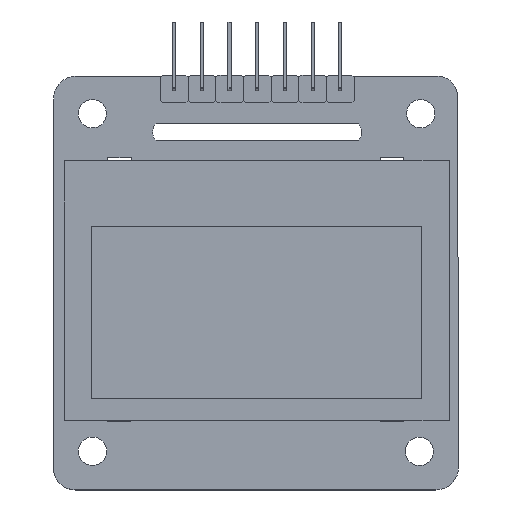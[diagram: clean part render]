
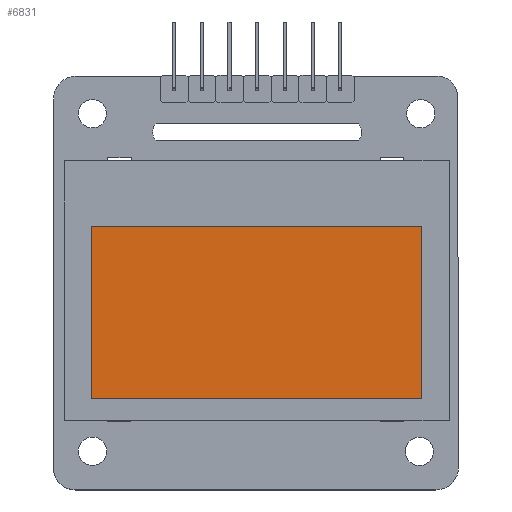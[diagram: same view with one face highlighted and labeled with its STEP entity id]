
A CAD part, top view. The second image highlights one B-rep face of the part: STEP entity #6831.
In plain terms, the highlighted planar face has unit normal (0, 0, 1).
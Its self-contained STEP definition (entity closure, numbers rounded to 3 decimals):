
#6831=ADVANCED_FACE('',(#8848),#7712,.F.);
#7712=PLANE('',#27045);
#8848=FACE_OUTER_BOUND('',#10132,.T.);
#10132=EDGE_LOOP('',(#15989,#15990,#15991,#15992));
#15989=ORIENTED_EDGE('',*,*,#20895,.F.);
#15990=ORIENTED_EDGE('',*,*,#20905,.F.);
#15991=ORIENTED_EDGE('',*,*,#20902,.F.);
#15992=ORIENTED_EDGE('',*,*,#20899,.F.);
#17959=VERTEX_POINT('',#46603);
#17960=VERTEX_POINT('',#46604);
#17963=VERTEX_POINT('',#46612);
#17965=VERTEX_POINT('',#46618);
#20895=EDGE_CURVE('',#17959,#17960,#23254,.T.);
#20899=EDGE_CURVE('',#17960,#17963,#23258,.T.);
#20902=EDGE_CURVE('',#17963,#17965,#23261,.T.);
#20905=EDGE_CURVE('',#17965,#17959,#23264,.T.);
#23254=LINE('',#46602,#25613);
#23258=LINE('',#46611,#25617);
#23261=LINE('',#46617,#25620);
#23264=LINE('',#46623,#25623);
#25613=VECTOR('',#32218,1.);
#25617=VECTOR('',#32224,1.);
#25620=VECTOR('',#32229,1.);
#25623=VECTOR('',#32234,1.);
#27045=AXIS2_PLACEMENT_3D('',#46627,#32240,#32241);
#32218=DIRECTION('',(0.,1.,0.));
#32224=DIRECTION('',(1.,0.,0.));
#32229=DIRECTION('',(0.,-1.,0.));
#32234=DIRECTION('',(-1.,0.,0.));
#32240=DIRECTION('',(0.,0.,-1.));
#32241=DIRECTION('',(1.,0.,0.));
#46602=CARTESIAN_POINT('',(-15.15,-5.9,3.5));
#46603=CARTESIAN_POINT('',(-15.15,-5.9,3.5));
#46604=CARTESIAN_POINT('',(-15.15,9.9,3.5));
#46611=CARTESIAN_POINT('',(-15.15,9.9,3.5));
#46612=CARTESIAN_POINT('',(15.15,9.9,3.5));
#46617=CARTESIAN_POINT('',(15.15,9.9,3.5));
#46618=CARTESIAN_POINT('',(15.15,-5.9,3.5));
#46623=CARTESIAN_POINT('',(15.15,-5.9,3.5));
#46627=CARTESIAN_POINT('',(0.,0.,3.5));
